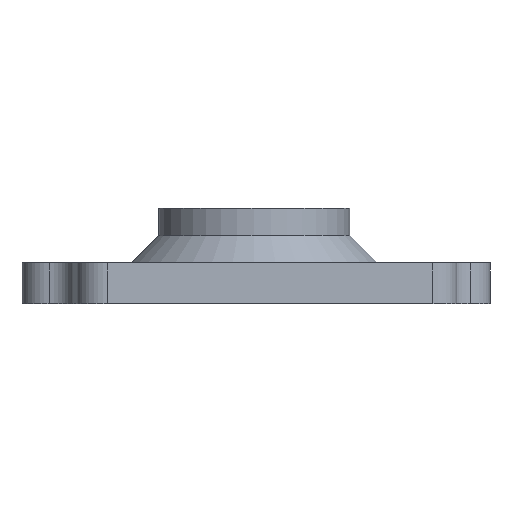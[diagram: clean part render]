
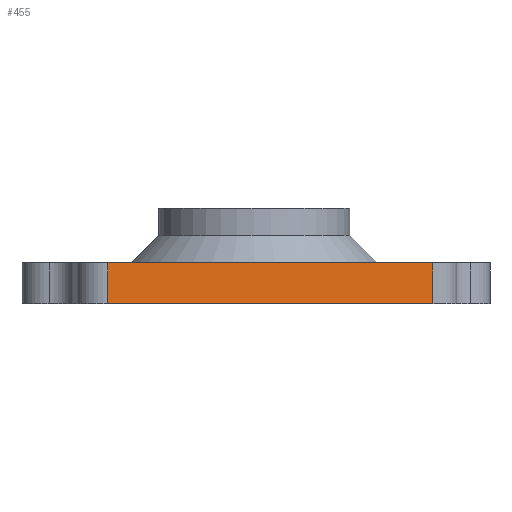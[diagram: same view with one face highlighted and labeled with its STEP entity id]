
A CAD part, front view. The second image highlights one B-rep face of the part: STEP entity #455.
In plain terms, the highlighted planar face has unit normal (0.123, -0.992, 0).
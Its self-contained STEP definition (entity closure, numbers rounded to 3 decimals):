
#2 = VECTOR ( 'NONE', #404, 1000. ) ;
#17 = EDGE_CURVE ( 'NONE', #573, #633, #626, .T. ) ;
#55 = AXIS2_PLACEMENT_3D ( 'NONE', #328, #589, #249 ) ;
#70 = CARTESIAN_POINT ( 'NONE',  ( -19.782, 50.106, 3. ) ) ;
#76 = CARTESIAN_POINT ( 'NONE',  ( 4.034, 53.071, 0. ) ) ;
#101 = ORIENTED_EDGE ( 'NONE', *, *, #433, .T. ) ;
#108 = ORIENTED_EDGE ( 'NONE', *, *, #17, .T. ) ;
#130 = VECTOR ( 'NONE', #976, 1000. ) ;
#157 = LINE ( 'NONE', #507, #1101 ) ;
#243 = EDGE_CURVE ( 'NONE', #286, #1055, #157, .T. ) ;
#249 = DIRECTION ( 'NONE',  ( -0.992, -0.124, 0. ) ) ;
#286 = VERTEX_POINT ( 'NONE', #451 ) ;
#328 = CARTESIAN_POINT ( 'NONE',  ( -21.766, 49.859, 3. ) ) ;
#371 = EDGE_CURVE ( 'NONE', #633, #1055, #372, .T. ) ;
#372 = LINE ( 'NONE', #800, #982 ) ;
#404 = DIRECTION ( 'NONE',  ( 0., 0., -1. ) ) ;
#418 = CARTESIAN_POINT ( 'NONE',  ( -19.782, 50.106, 0. ) ) ;
#433 = EDGE_CURVE ( 'NONE', #286, #573, #834, .T. ) ;
#451 = CARTESIAN_POINT ( 'NONE',  ( -19.782, 50.106, 3. ) ) ;
#455 = ADVANCED_FACE ( 'NONE', ( #503 ), #760, .F. ) ;
#503 = FACE_OUTER_BOUND ( 'NONE', #827, .T. ) ;
#507 = CARTESIAN_POINT ( 'NONE',  ( -21.766, 49.859, 3. ) ) ;
#527 = ORIENTED_EDGE ( 'NONE', *, *, #371, .T. ) ;
#573 = VERTEX_POINT ( 'NONE', #418 ) ;
#589 = DIRECTION ( 'NONE',  ( -0.124, 0.992, 0. ) ) ;
#626 = LINE ( 'NONE', #790, #130 ) ;
#633 = VERTEX_POINT ( 'NONE', #76 ) ;
#638 = DIRECTION ( 'NONE',  ( 0., 0., 1. ) ) ;
#760 = PLANE ( 'NONE',  #55 ) ;
#790 = CARTESIAN_POINT ( 'NONE',  ( -21.766, 49.859, 0. ) ) ;
#800 = CARTESIAN_POINT ( 'NONE',  ( 4.034, 53.071, 3. ) ) ;
#827 = EDGE_LOOP ( 'NONE', ( #851, #101, #108, #527 ) ) ;
#834 = LINE ( 'NONE', #70, #2 ) ;
#851 = ORIENTED_EDGE ( 'NONE', *, *, #243, .F. ) ;
#855 = DIRECTION ( 'NONE',  ( 0.992, 0.124, 0. ) ) ;
#947 = CARTESIAN_POINT ( 'NONE',  ( 4.034, 53.071, 3. ) ) ;
#976 = DIRECTION ( 'NONE',  ( 0.992, 0.124, 0. ) ) ;
#982 = VECTOR ( 'NONE', #638, 1000. ) ;
#1055 = VERTEX_POINT ( 'NONE', #947 ) ;
#1101 = VECTOR ( 'NONE', #855, 1000. ) ;
